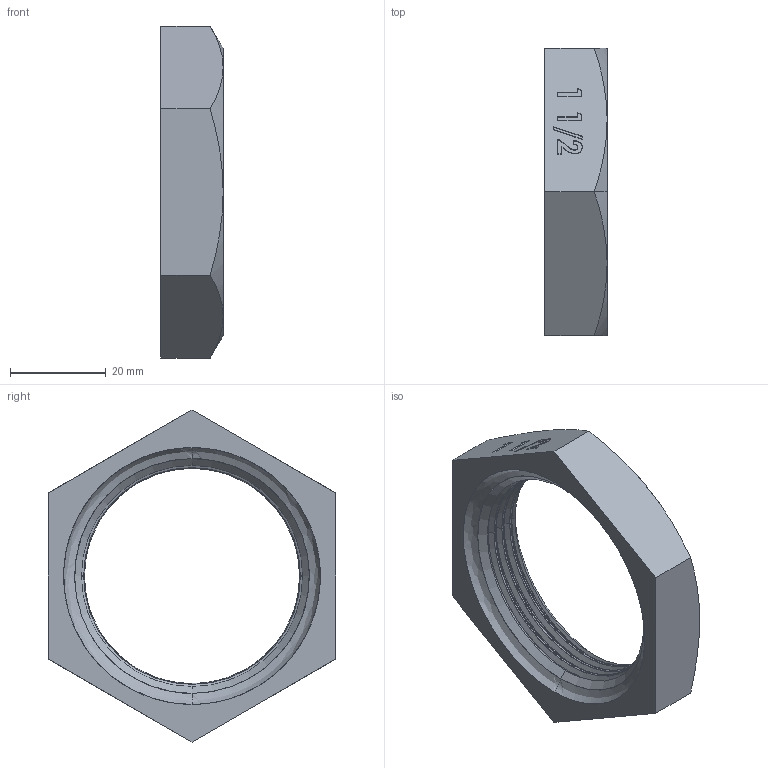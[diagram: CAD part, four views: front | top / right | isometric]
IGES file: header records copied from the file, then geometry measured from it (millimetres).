
Start section: SolidWorks IGES file using analytic representation for surfaces
Global section: file name: C:\Users\Joel Rosa\Desktop\Tubulação\12-06-XXX\12-06-009.IGS; native system: SolidWorks 2011; preprocessor: SolidWorks 2011; author: Joel Rosa; date: 130806.181229; units: millimetre
Bounding box: 13 x 60 x 69.28 mm (x, y, z)
Surface area: 7836.1 mm2 (no closed solid volume)
Topology: 0 solids, 0 shells, 158 faces, 1563 edges, 1563 vertices
Faces by surface type: bspline 131, revolution 27
